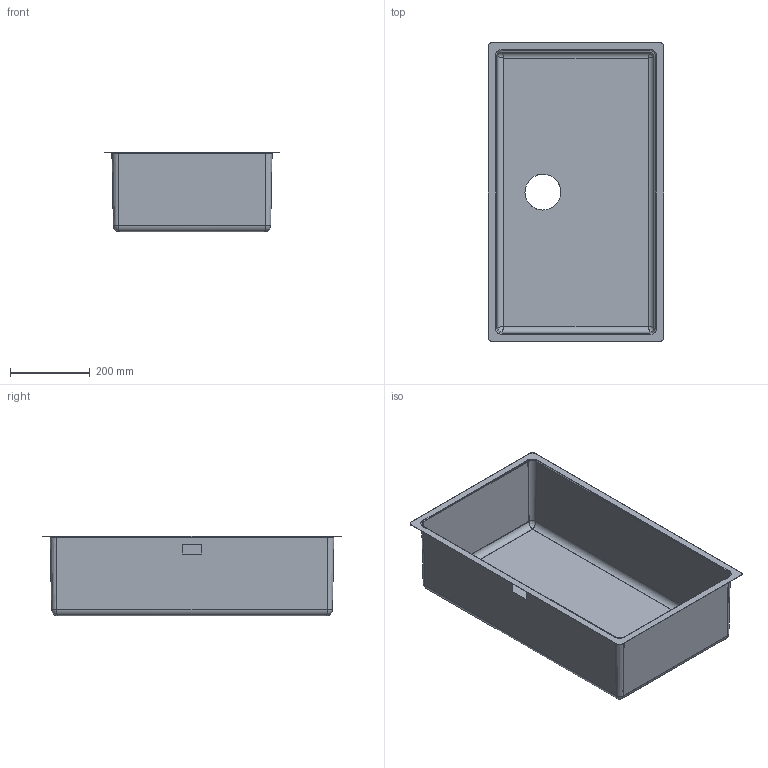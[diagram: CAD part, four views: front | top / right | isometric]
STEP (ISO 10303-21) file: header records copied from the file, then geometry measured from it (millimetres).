
FILE_DESCRIPTION(('CATIA V5 STEP Exchange'),'2;1');
FILE_NAME('M:\DISEGNI\LAVELLI\Mira\Assiemi\VSTR71DKX\VSTR71DKX.stp','2018-12-19T13:33:18+00:00',('none'),('none'),'CATIA Version 5-6 Release 2014','CATIA V5 STEP AP203','none');
FILE_SCHEMA(('CONFIG_CONTROL_DESIGN'));
Length unit declared in the file: millimetre
Products named in the file (1): 2427498
Bounding box: 440 x 750 x 200 mm (x, y, z)
Volume: 732514.3 mm3; surface area: 1467841.6 mm2
Topology: 1 solids, 1 shells, 68 faces, 160 edges, 88 vertices
Faces by surface type: bspline 24, cylinder 24, plane 20
Entity records: 3998 total; most frequent: CARTESIAN_POINT 2654, ORIENTED_EDGE 304, DIRECTION 180, EDGE_CURVE 152, VERTEX_POINT 88, EDGE_LOOP 74, VECTOR 72, LINE 72
